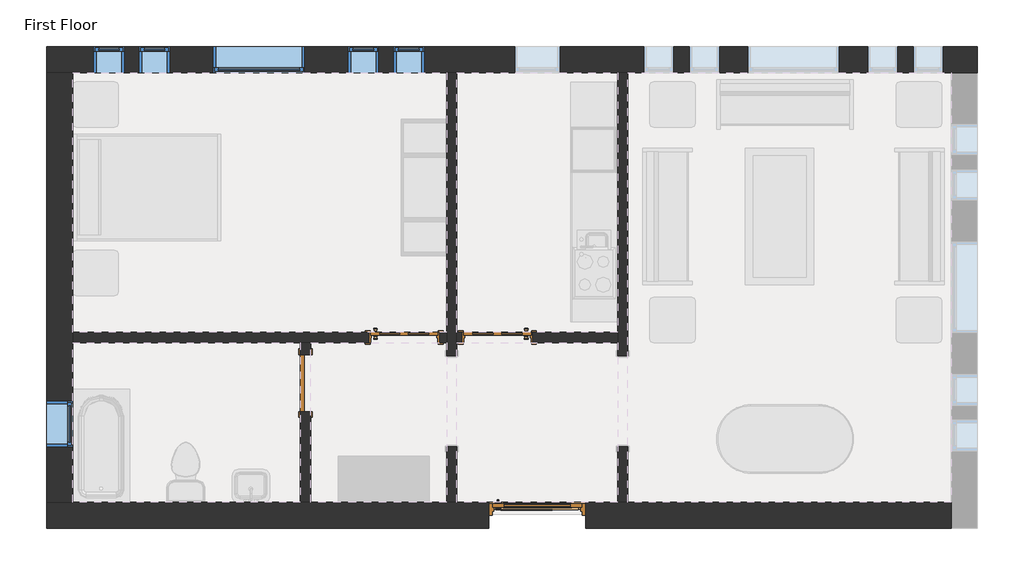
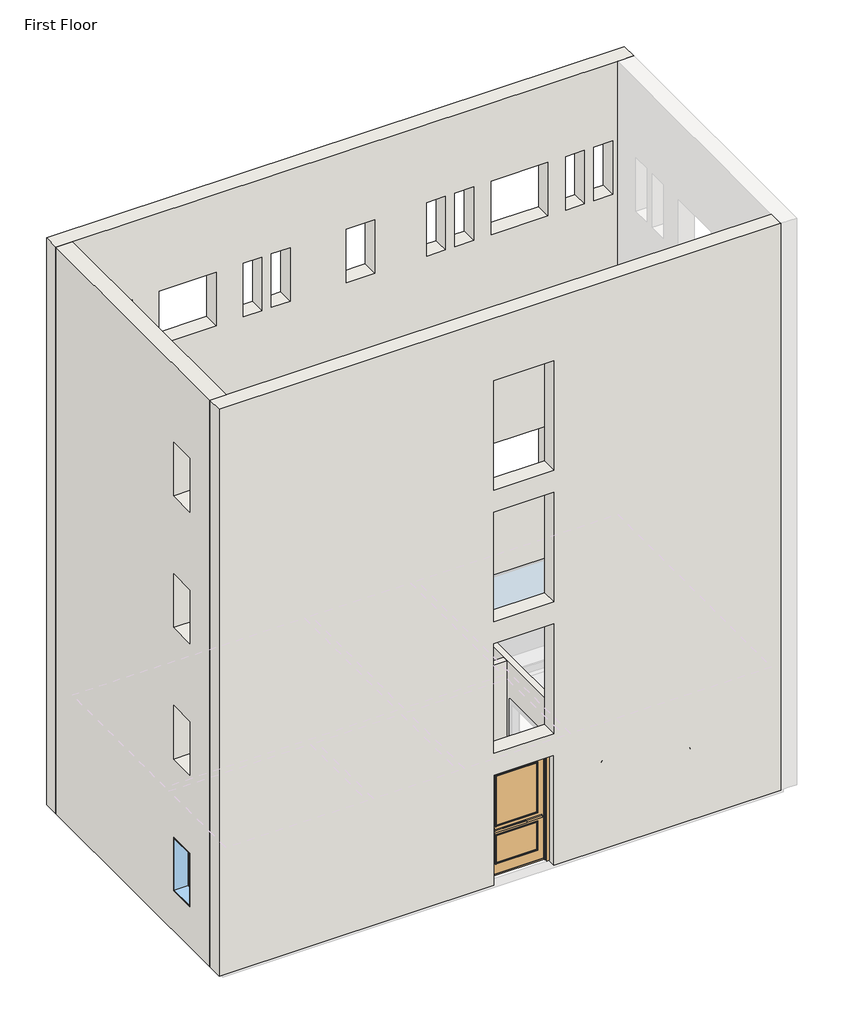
# One storey, part 1 of 2: 7 walls, 6 windows, 4 doors.
"""IFC4 building model written with IfcOpenShell, lengths in millimetres."""

from ifc_helpers import new_model, si_unit, frame, origin, place, context, project, spatial, polyline, outline, extrude, faceted_brep, transform, mapped, element, save
from components import m_door_exterior_single_two_lite_1200_x_2400mm_30e12bfc, m_door_interior_single_4_panel_wood_900_x_2100mm_1f4ed184, m_door_interior_single_4_panel_wood_900_x_2100mm_40914eee, m_single_flush_0762_x_2134mm_0d89e411, m_fixed_0406_x_1220mm_57fee329, m_fixed_0406_x_1220mm_85c28f40, m_fixed_0610_x_1220mm_2c28ef1d, m_fixed_1220_x_1220_e08ff7af

model = new_model("IFC4")

# Units and contexts
model_context = context("Model", 3, world=origin())
ifc_project = project(units=[si_unit("LENGTHUNIT", "METRE", prefix="MILLI")], contexts=[model_context])

# Site, building, storey
site = spatial("IfcSite", under=ifc_project)
building = spatial("IfcBuilding", under=site)
storey = spatial("IfcBuildingStorey", under=building, Name="First Floor", Elevation=0.0)

# Doors
placement = place(None, origin())
m_door_exterior_single_two_lite_1200_x_2400mm_shape = m_door_exterior_single_two_lite_1200_x_2400mm_30e12bfc(model_context)
element("IfcDoor", 1, ObjectType="M_Door-Exterior-Single-Two_Lite : 1200 x 2400mm", at=placement, inside=storey, context=model_context, shape_type="MappedRepresentation", body=[
    mapped(m_door_exterior_single_two_lite_1200_x_2400mm_shape, transform((-11984.0930086, 7923.7170483, 0.0), x_axis=(1.0, 0.0, 0.0), y_axis=(0.0, 1.0, 0.0), z_axis=(0.0, 0.0, 1.0))),
])
m_door_interior_single_4_panel_wood_900_x_2100mm_shape = m_door_interior_single_4_panel_wood_900_x_2100mm_1f4ed184(model_context)
element("IfcDoor", 2, ObjectType="M_Door-Interior-Single-4_Panel-Wood : 900 x 2100mm", at=placement, inside=storey, context=model_context, shape_type="MappedRepresentation", body=[
    mapped(m_door_interior_single_4_panel_wood_900_x_2100mm_shape, transform((-12518.0930086, 10309.9920483, 0.0), x_axis=(-1.0, 0.0, 0.0), y_axis=(0.0, -1.0, 0.0), z_axis=(0.0, 0.0, 1.0))),
])
m_door_interior_single_4_panel_wood_900_x_2100mm_2_shape = m_door_interior_single_4_panel_wood_900_x_2100mm_40914eee(model_context)
element("IfcDoor", 3, ObjectType="M_Door-Interior-Single-4_Panel-Wood : 900 x 2100mm", at=placement, inside=storey, context=model_context, shape_type="MappedRepresentation", body=[
    mapped(m_door_interior_single_4_panel_wood_900_x_2100mm_2_shape, transform((-13766.0930086, 10309.9920483, 0.0), x_axis=(1.0, 0.0, 0.0), y_axis=(0.0, 1.0, 0.0), z_axis=(0.0, 0.0, 1.0))),
])
m_single_flush_0762_x_2134mm_shape = m_single_flush_0762_x_2134mm_0d89e411(model_context)
element("IfcDoor", 4, ObjectType="M_Single-Flush : 0762 x 2134mm", at=placement, inside=storey, context=model_context, shape_type="MappedRepresentation", body=[
    mapped(m_single_flush_0762_x_2134mm_shape, transform((-15086.0930086, 9696.8170483, 0.0), x_axis=(0.0, 1.0, 0.0), y_axis=(-1.0, 0.0, 0.0), z_axis=(0.0, 0.0, 1.0))),
])

# Walls
element("IfcWall", 5, ObjectType="Exterior - Brick on Mtl. Stud", at=placement, inside=storey, context=model_context, shape_type="Brep", body=[
    faceted_brep([(-18551.8430086, 13851.0670483, 0.0), (-18366.8430086, 13851.0670483, 0.0), (-18201.8430086, 13851.0670483, 0.0), (-13194.8430086, 13851.0670483, 0.0), (-13059.3430086, 13851.0670483, 0.0), (-10908.8430086, 13851.0670483, 0.0), (-10773.3430086, 13851.0670483, 0.0), (-6444.0930086, 13851.0670483, 0.0), (-6279.0930086, 13851.0670483, 0.0), (-6094.0930086, 13851.0670483, 0.0), (-6094.0930086, 13851.0670483, 12915.0), (-6444.0930086, 13851.0670483, 12915.0), (-18201.8430086, 13851.0670483, 12915.0), (-18551.8430086, 13851.0670483, 12915.0), (-11679.0930086, 13851.0670483, 915.0), (-12289.0930086, 13851.0670483, 915.0), (-12289.0930086, 13851.0670483, 2135.0), (-11679.0930086, 13851.0670483, 2135.0), (-15099.8430086, 13851.0670483, 915.0), (-16319.8430086, 13851.0670483, 915.0), (-16319.8430086, 13851.0670483, 2135.0), (-15099.8430086, 13851.0670483, 2135.0), (-7945.0930086, 13851.0670483, 915.0), (-9165.0930086, 13851.0670483, 915.0), (-9165.0930086, 13851.0670483, 2135.0), (-7945.0930086, 13851.0670483, 2135.0), (-17919.4430086, 13851.0670483, 915.0), (-17919.4430086, 13851.0670483, 2135.0), (-17513.4430086, 13851.0670483, 2135.0), (-17513.4430086, 13851.0670483, 915.0), (-17309.8430086, 13851.0670483, 915.0), (-17309.8430086, 13851.0670483, 2135.0), (-16903.8430086, 13851.0670483, 2135.0), (-16903.8430086, 13851.0670483, 915.0), (-14109.8430086, 13851.0670483, 915.0), (-14515.8430086, 13851.0670483, 915.0), (-14515.8430086, 13851.0670483, 2135.0), (-14109.8430086, 13851.0670483, 2135.0), (-13500.2430086, 13851.0670483, 915.0), (-13906.2430086, 13851.0670483, 915.0), (-13906.2430086, 13851.0670483, 2135.0), (-13500.2430086, 13851.0670483, 2135.0), (-10155.0930086, 13851.0670483, 915.0), (-10561.0930086, 13851.0670483, 915.0), (-10561.0930086, 13851.0670483, 2135.0), (-10155.0930086, 13851.0670483, 2135.0), (-9545.4930086, 13851.0670483, 915.0), (-9951.4930086, 13851.0670483, 915.0), (-9951.4930086, 13851.0670483, 2135.0), (-9545.4930086, 13851.0670483, 2135.0), (-6955.0930086, 13851.0670483, 915.0), (-6955.0930086, 13851.0670483, 2135.0), (-6549.0930086, 13851.0670483, 2135.0), (-6549.0930086, 13851.0670483, 915.0), (-7564.6930086, 13851.0670483, 915.0), (-7564.6930086, 13851.0670483, 2135.0), (-7158.6930086, 13851.0670483, 2135.0), (-7158.6930086, 13851.0670483, 915.0), (-6955.0930086, 13851.0670483, 9915.0), (-6955.0930086, 13851.0670483, 11135.0), (-6549.0930086, 13851.0670483, 11135.0), (-6549.0930086, 13851.0670483, 9915.0), (-7564.6930086, 13851.0670483, 9915.0), (-7564.6930086, 13851.0670483, 11135.0), (-7158.6930086, 13851.0670483, 11135.0), (-7158.6930086, 13851.0670483, 9915.0), (-10155.0930086, 13851.0670483, 9915.0), (-10561.0930086, 13851.0670483, 9915.0), (-10561.0930086, 13851.0670483, 11135.0), (-10155.0930086, 13851.0670483, 11135.0), (-9545.4930086, 13851.0670483, 9915.0), (-9951.4930086, 13851.0670483, 9915.0), (-9951.4930086, 13851.0670483, 11135.0), (-9545.4930086, 13851.0670483, 11135.0), (-14109.8430086, 13851.0670483, 9915.0), (-14515.8430086, 13851.0670483, 9915.0), (-14515.8430086, 13851.0670483, 11135.0), (-14109.8430086, 13851.0670483, 11135.0), (-13500.2430086, 13851.0670483, 9915.0), (-13906.2430086, 13851.0670483, 9915.0), (-13906.2430086, 13851.0670483, 11135.0), (-13500.2430086, 13851.0670483, 11135.0), (-17309.8430086, 13851.0670483, 9915.0), (-17309.8430086, 13851.0670483, 11135.0), (-16903.8430086, 13851.0670483, 11135.0), (-16903.8430086, 13851.0670483, 9915.0), (-17919.4430086, 13851.0670483, 9915.0), (-17919.4430086, 13851.0670483, 11135.0), (-17513.4430086, 13851.0670483, 11135.0), (-17513.4430086, 13851.0670483, 9915.0), (-7945.0930086, 13851.0670483, 9915.0), (-9165.0930086, 13851.0670483, 9915.0), (-9165.0930086, 13851.0670483, 11135.0), (-7945.0930086, 13851.0670483, 11135.0), (-15099.8430086, 13851.0670483, 9915.0), (-16319.8430086, 13851.0670483, 9915.0), (-16319.8430086, 13851.0670483, 11135.0), (-15099.8430086, 13851.0670483, 11135.0), (-11679.0930086, 13851.0670483, 9915.0), (-12289.0930086, 13851.0670483, 9915.0), (-12289.0930086, 13851.0670483, 11135.0), (-11679.0930086, 13851.0670483, 11135.0), (-6955.0930086, 13851.0670483, 3915.0), (-6955.0930086, 13851.0670483, 5135.0), (-6549.0930086, 13851.0670483, 5135.0), (-6549.0930086, 13851.0670483, 3915.0), (-7564.6930086, 13851.0670483, 3915.0), (-7564.6930086, 13851.0670483, 5135.0), (-7158.6930086, 13851.0670483, 5135.0), (-7158.6930086, 13851.0670483, 3915.0), (-10155.0930086, 13851.0670483, 3915.0), (-10561.0930086, 13851.0670483, 3915.0), (-10561.0930086, 13851.0670483, 5135.0), (-10155.0930086, 13851.0670483, 5135.0), (-9545.4930086, 13851.0670483, 3915.0), (-9951.4930086, 13851.0670483, 3915.0), (-9951.4930086, 13851.0670483, 5135.0), (-9545.4930086, 13851.0670483, 5135.0), (-14109.8430086, 13851.0670483, 3915.0), (-14515.8430086, 13851.0670483, 3915.0), (-14515.8430086, 13851.0670483, 5135.0), (-14109.8430086, 13851.0670483, 5135.0), (-13500.2430086, 13851.0670483, 3915.0), (-13906.2430086, 13851.0670483, 3915.0), (-13906.2430086, 13851.0670483, 5135.0), (-13500.2430086, 13851.0670483, 5135.0), (-17309.8430086, 13851.0670483, 3915.0), (-17309.8430086, 13851.0670483, 5135.0), (-16903.8430086, 13851.0670483, 5135.0), (-16903.8430086, 13851.0670483, 3915.0), (-17919.4430086, 13851.0670483, 3915.0), (-17919.4430086, 13851.0670483, 5135.0), (-17513.4430086, 13851.0670483, 5135.0), (-17513.4430086, 13851.0670483, 3915.0), (-7945.0930086, 13851.0670483, 3915.0), (-9165.0930086, 13851.0670483, 3915.0), (-9165.0930086, 13851.0670483, 5135.0), (-7945.0930086, 13851.0670483, 5135.0), (-15099.8430086, 13851.0670483, 3915.0), (-16319.8430086, 13851.0670483, 3915.0), (-16319.8430086, 13851.0670483, 5135.0), (-15099.8430086, 13851.0670483, 5135.0), (-11679.0930086, 13851.0670483, 3915.0), (-12289.0930086, 13851.0670483, 3915.0), (-12289.0930086, 13851.0670483, 5135.0), (-11679.0930086, 13851.0670483, 5135.0), (-6955.0930086, 13851.0670483, 6915.0), (-6955.0930086, 13851.0670483, 8135.0), (-6549.0930086, 13851.0670483, 8135.0), (-6549.0930086, 13851.0670483, 6915.0), (-7564.6930086, 13851.0670483, 6915.0), (-7564.6930086, 13851.0670483, 8135.0), (-7158.6930086, 13851.0670483, 8135.0), (-7158.6930086, 13851.0670483, 6915.0), (-10155.0930086, 13851.0670483, 6915.0), (-10561.0930086, 13851.0670483, 6915.0), (-10561.0930086, 13851.0670483, 8135.0), (-10155.0930086, 13851.0670483, 8135.0), (-9545.4930086, 13851.0670483, 6915.0), (-9951.4930086, 13851.0670483, 6915.0), (-9951.4930086, 13851.0670483, 8135.0), (-9545.4930086, 13851.0670483, 8135.0), (-14109.8430086, 13851.0670483, 6915.0), (-14515.8430086, 13851.0670483, 6915.0), (-14515.8430086, 13851.0670483, 8135.0), (-14109.8430086, 13851.0670483, 8135.0), (-13500.2430086, 13851.0670483, 6915.0), (-13906.2430086, 13851.0670483, 6915.0), (-13906.2430086, 13851.0670483, 8135.0), (-13500.2430086, 13851.0670483, 8135.0), (-17309.8430086, 13851.0670483, 6915.0), (-17309.8430086, 13851.0670483, 8135.0), (-16903.8430086, 13851.0670483, 8135.0), (-16903.8430086, 13851.0670483, 6915.0), (-17919.4430086, 13851.0670483, 6915.0), (-17919.4430086, 13851.0670483, 8135.0), (-17513.4430086, 13851.0670483, 8135.0), (-17513.4430086, 13851.0670483, 6915.0), (-7945.0930086, 13851.0670483, 6915.0), (-9165.0930086, 13851.0670483, 6915.0), (-9165.0930086, 13851.0670483, 8135.0), (-7945.0930086, 13851.0670483, 8135.0), (-15099.8430086, 13851.0670483, 6915.0), (-16319.8430086, 13851.0670483, 6915.0), (-16319.8430086, 13851.0670483, 8135.0), (-15099.8430086, 13851.0670483, 8135.0), (-11679.0930086, 13851.0670483, 6915.0), (-12289.0930086, 13851.0670483, 6915.0), (-12289.0930086, 13851.0670483, 8135.0), (-11679.0930086, 13851.0670483, 8135.0), (-18551.8430086, 14201.0670483, 0.0), (-18551.8430086, 14201.0670483, 12915.0), (-6094.0930086, 14201.0670483, 12915.0), (-6094.0930086, 14201.0670483, 0.0), (-6279.0930086, 14201.0670483, 0.0), (-18366.8430086, 14201.0670483, 0.0), (-11679.0930086, 14201.0670483, 915.0), (-11679.0930086, 14201.0670483, 2135.0), (-12289.0930086, 14201.0670483, 2135.0), (-12289.0930086, 14201.0670483, 915.0), (-15099.8430086, 14201.0670483, 915.0), (-15099.8430086, 14201.0670483, 2135.0), (-16319.8430086, 14201.0670483, 2135.0), (-16319.8430086, 14201.0670483, 915.0), (-7945.0930086, 14201.0670483, 915.0), (-7945.0930086, 14201.0670483, 2135.0), (-9165.0930086, 14201.0670483, 2135.0), (-9165.0930086, 14201.0670483, 915.0), (-17919.4430086, 14201.0670483, 915.0), (-17513.4430086, 14201.0670483, 915.0), (-17513.4430086, 14201.0670483, 2135.0), (-17919.4430086, 14201.0670483, 2135.0), (-17309.8430086, 14201.0670483, 915.0), (-16903.8430086, 14201.0670483, 915.0), (-16903.8430086, 14201.0670483, 2135.0), (-17309.8430086, 14201.0670483, 2135.0), (-14109.8430086, 14201.0670483, 915.0), (-14109.8430086, 14201.0670483, 2135.0), (-14515.8430086, 14201.0670483, 2135.0), (-14515.8430086, 14201.0670483, 915.0), (-13500.2430086, 14201.0670483, 915.0), (-13500.2430086, 14201.0670483, 2135.0), (-13906.2430086, 14201.0670483, 2135.0), (-13906.2430086, 14201.0670483, 915.0), (-10155.0930086, 14201.0670483, 915.0), (-10155.0930086, 14201.0670483, 2135.0), (-10561.0930086, 14201.0670483, 2135.0), (-10561.0930086, 14201.0670483, 915.0), (-9545.4930086, 14201.0670483, 915.0), (-9545.4930086, 14201.0670483, 2135.0), (-9951.4930086, 14201.0670483, 2135.0), (-9951.4930086, 14201.0670483, 915.0), (-6955.0930086, 14201.0670483, 915.0), (-6549.0930086, 14201.0670483, 915.0), (-6549.0930086, 14201.0670483, 2135.0), (-6955.0930086, 14201.0670483, 2135.0), (-7564.6930086, 14201.0670483, 915.0), (-7158.6930086, 14201.0670483, 915.0), (-7158.6930086, 14201.0670483, 2135.0), (-7564.6930086, 14201.0670483, 2135.0), (-6955.0930086, 14201.0670483, 9915.0), (-6549.0930086, 14201.0670483, 9915.0), (-6549.0930086, 14201.0670483, 11135.0), (-6955.0930086, 14201.0670483, 11135.0), (-7564.6930086, 14201.0670483, 9915.0), (-7158.6930086, 14201.0670483, 9915.0), (-7158.6930086, 14201.0670483, 11135.0), (-7564.6930086, 14201.0670483, 11135.0), (-10155.0930086, 14201.0670483, 9915.0), (-10155.0930086, 14201.0670483, 11135.0), (-10561.0930086, 14201.0670483, 11135.0), (-10561.0930086, 14201.0670483, 9915.0), (-9545.4930086, 14201.0670483, 9915.0), (-9545.4930086, 14201.0670483, 11135.0), (-9951.4930086, 14201.0670483, 11135.0), (-9951.4930086, 14201.0670483, 9915.0), (-14109.8430086, 14201.0670483, 9915.0), (-14109.8430086, 14201.0670483, 11135.0), (-14515.8430086, 14201.0670483, 11135.0), (-14515.8430086, 14201.0670483, 9915.0), (-13500.2430086, 14201.0670483, 9915.0), (-13500.2430086, 14201.0670483, 11135.0), (-13906.2430086, 14201.0670483, 11135.0), (-13906.2430086, 14201.0670483, 9915.0), (-17309.8430086, 14201.0670483, 9915.0), (-16903.8430086, 14201.0670483, 9915.0), (-16903.8430086, 14201.0670483, 11135.0), (-17309.8430086, 14201.0670483, 11135.0), (-17919.4430086, 14201.0670483, 9915.0), (-17513.4430086, 14201.0670483, 9915.0), (-17513.4430086, 14201.0670483, 11135.0), (-17919.4430086, 14201.0670483, 11135.0), (-7945.0930086, 14201.0670483, 9915.0), (-7945.0930086, 14201.0670483, 11135.0), (-9165.0930086, 14201.0670483, 11135.0), (-9165.0930086, 14201.0670483, 9915.0), (-15099.8430086, 14201.0670483, 9915.0), (-15099.8430086, 14201.0670483, 11135.0), (-16319.8430086, 14201.0670483, 11135.0), (-16319.8430086, 14201.0670483, 9915.0), (-11679.0930086, 14201.0670483, 9915.0), (-11679.0930086, 14201.0670483, 11135.0), (-12289.0930086, 14201.0670483, 11135.0), (-12289.0930086, 14201.0670483, 9915.0), (-6955.0930086, 14201.0670483, 3915.0), (-6549.0930086, 14201.0670483, 3915.0), (-6549.0930086, 14201.0670483, 5135.0), (-6955.0930086, 14201.0670483, 5135.0), (-7564.6930086, 14201.0670483, 3915.0), (-7158.6930086, 14201.0670483, 3915.0), (-7158.6930086, 14201.0670483, 5135.0), (-7564.6930086, 14201.0670483, 5135.0), (-10155.0930086, 14201.0670483, 3915.0), (-10155.0930086, 14201.0670483, 5135.0), (-10561.0930086, 14201.0670483, 5135.0), (-10561.0930086, 14201.0670483, 3915.0), (-9545.4930086, 14201.0670483, 3915.0), (-9545.4930086, 14201.0670483, 5135.0), (-9951.4930086, 14201.0670483, 5135.0), (-9951.4930086, 14201.0670483, 3915.0), (-14109.8430086, 14201.0670483, 3915.0), (-14109.8430086, 14201.0670483, 5135.0), (-14515.8430086, 14201.0670483, 5135.0), (-14515.8430086, 14201.0670483, 3915.0), (-13500.2430086, 14201.0670483, 3915.0), (-13500.2430086, 14201.0670483, 5135.0), (-13906.2430086, 14201.0670483, 5135.0), (-13906.2430086, 14201.0670483, 3915.0), (-17309.8430086, 14201.0670483, 3915.0), (-16903.8430086, 14201.0670483, 3915.0), (-16903.8430086, 14201.0670483, 5135.0), (-17309.8430086, 14201.0670483, 5135.0), (-17919.4430086, 14201.0670483, 3915.0), (-17513.4430086, 14201.0670483, 3915.0), (-17513.4430086, 14201.0670483, 5135.0), (-17919.4430086, 14201.0670483, 5135.0), (-7945.0930086, 14201.0670483, 3915.0), (-7945.0930086, 14201.0670483, 5135.0), (-9165.0930086, 14201.0670483, 5135.0), (-9165.0930086, 14201.0670483, 3915.0), (-15099.8430086, 14201.0670483, 3915.0), (-15099.8430086, 14201.0670483, 5135.0), (-16319.8430086, 14201.0670483, 5135.0), (-16319.8430086, 14201.0670483, 3915.0), (-11679.0930086, 14201.0670483, 3915.0), (-11679.0930086, 14201.0670483, 5135.0), (-12289.0930086, 14201.0670483, 5135.0), (-12289.0930086, 14201.0670483, 3915.0), (-6955.0930086, 14201.0670483, 6915.0), (-6549.0930086, 14201.0670483, 6915.0), (-6549.0930086, 14201.0670483, 8135.0), (-6955.0930086, 14201.0670483, 8135.0), (-7564.6930086, 14201.0670483, 6915.0), (-7158.6930086, 14201.0670483, 6915.0), (-7158.6930086, 14201.0670483, 8135.0), (-7564.6930086, 14201.0670483, 8135.0), (-10155.0930086, 14201.0670483, 6915.0), (-10155.0930086, 14201.0670483, 8135.0), (-10561.0930086, 14201.0670483, 8135.0), (-10561.0930086, 14201.0670483, 6915.0), (-9545.4930086, 14201.0670483, 6915.0), (-9545.4930086, 14201.0670483, 8135.0), (-9951.4930086, 14201.0670483, 8135.0), (-9951.4930086, 14201.0670483, 6915.0), (-14109.8430086, 14201.0670483, 6915.0), (-14109.8430086, 14201.0670483, 8135.0), (-14515.8430086, 14201.0670483, 8135.0), (-14515.8430086, 14201.0670483, 6915.0), (-13500.2430086, 14201.0670483, 6915.0), (-13500.2430086, 14201.0670483, 8135.0), (-13906.2430086, 14201.0670483, 8135.0), (-13906.2430086, 14201.0670483, 6915.0), (-17309.8430086, 14201.0670483, 6915.0), (-16903.8430086, 14201.0670483, 6915.0), (-16903.8430086, 14201.0670483, 8135.0), (-17309.8430086, 14201.0670483, 8135.0), (-17919.4430086, 14201.0670483, 6915.0), (-17513.4430086, 14201.0670483, 6915.0), (-17513.4430086, 14201.0670483, 8135.0), (-17919.4430086, 14201.0670483, 8135.0), (-7945.0930086, 14201.0670483, 6915.0), (-7945.0930086, 14201.0670483, 8135.0), (-9165.0930086, 14201.0670483, 8135.0), (-9165.0930086, 14201.0670483, 6915.0), (-15099.8430086, 14201.0670483, 6915.0), (-15099.8430086, 14201.0670483, 8135.0), (-16319.8430086, 14201.0670483, 8135.0), (-16319.8430086, 14201.0670483, 6915.0), (-11679.0930086, 14201.0670483, 6915.0), (-11679.0930086, 14201.0670483, 8135.0), (-12289.0930086, 14201.0670483, 8135.0), (-12289.0930086, 14201.0670483, 6915.0), (-6094.0930086, 14016.0670483, 0.0), (-18551.8430086, 14016.0670483, 0.0), (-18366.8430086, 14016.0670483, 0.0), (-6279.0930086, 14016.0670483, 0.0)], [[[0, 1, 2, 3, 4, 5, 6, 7, 8, 9, 10, 11, 12, 13], [14, 15, 16, 17], [18, 19, 20, 21], [22, 23, 24, 25], [26, 27, 28, 29], [30, 31, 32, 33], [34, 35, 36, 37], [38, 39, 40, 41], [42, 43, 44, 45], [46, 47, 48, 49], [50, 51, 52, 53], [54, 55, 56, 57], [58, 59, 60, 61], [62, 63, 64, 65], [66, 67, 68, 69], [70, 71, 72, 73], [74, 75, 76, 77], [78, 79, 80, 81], [82, 83, 84, 85], [86, 87, 88, 89], [90, 91, 92, 93], [94, 95, 96, 97], [98, 99, 100, 101], [102, 103, 104, 105], [106, 107, 108, 109], [110, 111, 112, 113], [114, 115, 116, 117], [118, 119, 120, 121], [122, 123, 124, 125], [126, 127, 128, 129], [130, 131, 132, 133], [134, 135, 136, 137], [138, 139, 140, 141], [142, 143, 144, 145], [146, 147, 148, 149], [150, 151, 152, 153], [154, 155, 156, 157], [158, 159, 160, 161], [162, 163, 164, 165], [166, 167, 168, 169], [170, 171, 172, 173], [174, 175, 176, 177], [178, 179, 180, 181], [182, 183, 184, 185], [186, 187, 188, 189]], [[190, 191, 192, 193, 194, 195], [196, 197, 198, 199], [200, 201, 202, 203], [204, 205, 206, 207], [208, 209, 210, 211], [212, 213, 214, 215], [216, 217, 218, 219], [220, 221, 222, 223], [224, 225, 226, 227], [228, 229, 230, 231], [232, 233, 234, 235], [236, 237, 238, 239], [240, 241, 242, 243], [244, 245, 246, 247], [248, 249, 250, 251], [252, 253, 254, 255], [256, 257, 258, 259], [260, 261, 262, 263], [264, 265, 266, 267], [268, 269, 270, 271], [272, 273, 274, 275], [276, 277, 278, 279], [280, 281, 282, 283], [284, 285, 286, 287], [288, 289, 290, 291], [292, 293, 294, 295], [296, 297, 298, 299], [300, 301, 302, 303], [304, 305, 306, 307], [308, 309, 310, 311], [312, 313, 314, 315], [316, 317, 318, 319], [320, 321, 322, 323], [324, 325, 326, 327], [328, 329, 330, 331], [332, 333, 334, 335], [336, 337, 338, 339], [340, 341, 342, 343], [344, 345, 346, 347], [348, 349, 350, 351], [352, 353, 354, 355], [356, 357, 358, 359], [360, 361, 362, 363], [364, 365, 366, 367], [368, 369, 370, 371]], [[13, 12, 11, 10, 192, 191]], [[10, 9, 372, 193, 192]], [[0, 13, 191, 190, 373]], [[197, 196, 14, 17]], [[198, 197, 17, 16]], [[199, 198, 16, 15]], [[196, 199, 15, 14]], [[201, 200, 18, 21]], [[202, 201, 21, 20]], [[203, 202, 20, 19]], [[200, 203, 19, 18]], [[205, 204, 22, 25]], [[206, 205, 25, 24]], [[207, 206, 24, 23]], [[204, 207, 23, 22]], [[27, 26, 208, 211]], [[28, 27, 211, 210]], [[29, 28, 210, 209]], [[26, 29, 209, 208]], [[31, 30, 212, 215]], [[32, 31, 215, 214]], [[33, 32, 214, 213]], [[30, 33, 213, 212]], [[217, 216, 34, 37]], [[218, 217, 37, 36]], [[219, 218, 36, 35]], [[216, 219, 35, 34]], [[221, 220, 38, 41]], [[222, 221, 41, 40]], [[223, 222, 40, 39]], [[220, 223, 39, 38]], [[225, 224, 42, 45]], [[226, 225, 45, 44]], [[227, 226, 44, 43]], [[224, 227, 43, 42]], [[229, 228, 46, 49]], [[230, 229, 49, 48]], [[231, 230, 48, 47]], [[228, 231, 47, 46]], [[51, 50, 232, 235]], [[52, 51, 235, 234]], [[53, 52, 234, 233]], [[50, 53, 233, 232]], [[55, 54, 236, 239]], [[56, 55, 239, 238]], [[57, 56, 238, 237]], [[54, 57, 237, 236]], [[1, 0, 373, 374]], [[373, 190, 195, 374]], [[9, 8, 375, 372]], [[195, 194, 375, 374]], [[194, 193, 372, 375]], [[8, 7, 6, 5, 4, 3, 2, 1, 374, 375]], [[59, 58, 240, 243]], [[60, 59, 243, 242]], [[61, 60, 242, 241]], [[58, 61, 241, 240]], [[63, 62, 244, 247]], [[64, 63, 247, 246]], [[65, 64, 246, 245]], [[62, 65, 245, 244]], [[249, 248, 66, 69]], [[250, 249, 69, 68]], [[251, 250, 68, 67]], [[248, 251, 67, 66]], [[253, 252, 70, 73]], [[254, 253, 73, 72]], [[255, 254, 72, 71]], [[252, 255, 71, 70]], [[257, 256, 74, 77]], [[258, 257, 77, 76]], [[259, 258, 76, 75]], [[256, 259, 75, 74]], [[261, 260, 78, 81]], [[262, 261, 81, 80]], [[263, 262, 80, 79]], [[260, 263, 79, 78]], [[83, 82, 264, 267]], [[84, 83, 267, 266]], [[85, 84, 266, 265]], [[82, 85, 265, 264]], [[87, 86, 268, 271]], [[88, 87, 271, 270]], [[89, 88, 270, 269]], [[86, 89, 269, 268]], [[273, 272, 90, 93]], [[274, 273, 93, 92]], [[275, 274, 92, 91]], [[272, 275, 91, 90]], [[277, 276, 94, 97]], [[278, 277, 97, 96]], [[279, 278, 96, 95]], [[276, 279, 95, 94]], [[281, 280, 98, 101]], [[282, 281, 101, 100]], [[283, 282, 100, 99]], [[280, 283, 99, 98]], [[103, 102, 284, 287]], [[104, 103, 287, 286]], [[105, 104, 286, 285]], [[102, 105, 285, 284]], [[107, 106, 288, 291]], [[108, 107, 291, 290]], [[109, 108, 290, 289]], [[106, 109, 289, 288]], [[293, 292, 110, 113]], [[294, 293, 113, 112]], [[295, 294, 112, 111]], [[292, 295, 111, 110]], [[297, 296, 114, 117]], [[298, 297, 117, 116]], [[299, 298, 116, 115]], [[296, 299, 115, 114]], [[301, 300, 118, 121]], [[302, 301, 121, 120]], [[303, 302, 120, 119]], [[300, 303, 119, 118]], [[305, 304, 122, 125]], [[306, 305, 125, 124]], [[307, 306, 124, 123]], [[304, 307, 123, 122]], [[127, 126, 308, 311]], [[128, 127, 311, 310]], [[129, 128, 310, 309]], [[126, 129, 309, 308]], [[131, 130, 312, 315]], [[132, 131, 315, 314]], [[133, 132, 314, 313]], [[130, 133, 313, 312]], [[317, 316, 134, 137]], [[318, 317, 137, 136]], [[319, 318, 136, 135]], [[316, 319, 135, 134]], [[321, 320, 138, 141]], [[322, 321, 141, 140]], [[323, 322, 140, 139]], [[320, 323, 139, 138]], [[325, 324, 142, 145]], [[326, 325, 145, 144]], [[327, 326, 144, 143]], [[324, 327, 143, 142]], [[147, 146, 328, 331]], [[148, 147, 331, 330]], [[149, 148, 330, 329]], [[146, 149, 329, 328]], [[151, 150, 332, 335]], [[152, 151, 335, 334]], [[153, 152, 334, 333]], [[150, 153, 333, 332]], [[337, 336, 154, 157]], [[338, 337, 157, 156]], [[339, 338, 156, 155]], [[336, 339, 155, 154]], [[341, 340, 158, 161]], [[342, 341, 161, 160]], [[343, 342, 160, 159]], [[340, 343, 159, 158]], [[345, 344, 162, 165]], [[346, 345, 165, 164]], [[347, 346, 164, 163]], [[344, 347, 163, 162]], [[349, 348, 166, 169]], [[350, 349, 169, 168]], [[351, 350, 168, 167]], [[348, 351, 167, 166]], [[171, 170, 352, 355]], [[172, 171, 355, 354]], [[173, 172, 354, 353]], [[170, 173, 353, 352]], [[175, 174, 356, 359]], [[176, 175, 359, 358]], [[177, 176, 358, 357]], [[174, 177, 357, 356]], [[361, 360, 178, 181]], [[362, 361, 181, 180]], [[363, 362, 180, 179]], [[360, 363, 179, 178]], [[365, 364, 182, 185]], [[366, 365, 185, 184]], [[367, 366, 184, 183]], [[364, 367, 183, 182]], [[369, 368, 186, 189]], [[370, 369, 189, 188]], [[371, 370, 188, 187]], [[368, 371, 187, 186]]]),
])
element("IfcWall", 6, ObjectType="Exterior - Brick on Mtl. Stud", at=placement, inside=storey, context=model_context, shape_type="Brep", body=[
    faceted_brep([(-18551.8430086, 8105.0670483, 12915.0), (-18201.8430086, 8105.0670483, 12915.0), (-6444.0930086, 8105.0670483, 12915.0), (-6444.0930086, 8105.0670483, 0.0), (-10773.3430086, 8105.0670483, 0.0), (-10908.8430086, 8105.0670483, 0.0), (-11334.0930086, 8105.0670483, 0.0), (-11334.0930086, 8105.0670483, 2500.0), (-12634.0930086, 8105.0670483, 2500.0), (-12634.0930086, 8105.0670483, 0.0), (-13059.3430086, 8105.0670483, 0.0), (-13194.8430086, 8105.0670483, 0.0), (-15018.3430086, 8105.0670483, 0.0), (-15153.8430086, 8105.0670483, 0.0), (-18201.8430086, 8105.0670483, 0.0), (-18551.8430086, 8105.0670483, 0.0), (-11334.0930086, 8105.0670483, 9000.0), (-11334.0930086, 8105.0670483, 11500.0), (-12634.0930086, 8105.0670483, 11500.0), (-12634.0930086, 8105.0670483, 9000.0), (-11334.0930086, 8105.0670483, 3000.0), (-11334.0930086, 8105.0670483, 5500.0), (-12634.0930086, 8105.0670483, 5500.0), (-12634.0930086, 8105.0670483, 3000.0), (-11334.0930086, 8105.0670483, 6000.0), (-11334.0930086, 8105.0670483, 8500.0), (-12634.0930086, 8105.0670483, 8500.0), (-12634.0930086, 8105.0670483, 6000.0), (-6444.0930086, 7755.0670483, 12915.0), (-18551.8430086, 7755.0670483, 12915.0), (-18551.8430086, 7755.0670483, 0.0), (-12634.0930086, 7755.0670483, 0.0), (-12634.0930086, 7755.0670483, 2500.0), (-11334.0930086, 7755.0670483, 2500.0), (-11334.0930086, 7755.0670483, 0.0), (-6444.0930086, 7755.0670483, 0.0), (-11334.0930086, 7755.0670483, 9000.0), (-12634.0930086, 7755.0670483, 9000.0), (-12634.0930086, 7755.0670483, 11500.0), (-11334.0930086, 7755.0670483, 11500.0), (-11334.0930086, 7755.0670483, 3000.0), (-12634.0930086, 7755.0670483, 3000.0), (-12634.0930086, 7755.0670483, 5500.0), (-11334.0930086, 7755.0670483, 5500.0), (-11334.0930086, 7755.0670483, 6000.0), (-12634.0930086, 7755.0670483, 6000.0), (-12634.0930086, 7755.0670483, 8500.0), (-11334.0930086, 7755.0670483, 8500.0)], [[[0, 1, 2, 3, 4, 5, 6, 7, 8, 9, 10, 11, 12, 13, 14, 15], [16, 17, 18, 19], [20, 21, 22, 23], [24, 25, 26, 27]], [[28, 29, 30, 31, 32, 33, 34, 35], [36, 37, 38, 39], [40, 41, 42, 43], [44, 45, 46, 47]], [[3, 35, 34, 6, 5, 4]], [[30, 15, 14, 13, 12, 11, 10, 9, 31]], [[2, 1, 0, 29, 28]], [[3, 2, 28, 35]], [[0, 15, 30, 29]], [[33, 7, 6, 34]], [[7, 33, 32, 8]], [[8, 32, 31, 9]], [[17, 16, 36, 39]], [[18, 17, 39, 38]], [[19, 18, 38, 37]], [[16, 19, 37, 36]], [[21, 20, 40, 43]], [[22, 21, 43, 42]], [[23, 22, 42, 41]], [[20, 23, 41, 40]], [[25, 24, 44, 47]], [[26, 25, 47, 46]], [[27, 26, 46, 45]], [[24, 27, 45, 44]]]),
])
element("IfcWall", 7, ObjectType="Exterior - Brick on Mtl. Stud", at=placement, inside=storey, context=model_context, shape_type="Brep", body=[
    faceted_brep([(-18201.8430086, 8105.0670483, 0.0), (-18201.8430086, 10239.0670483, 0.0), (-18201.8430086, 10374.5670483, 0.0), (-18201.8430086, 13851.0670483, 0.0), (-18201.8430086, 13851.0670483, 12915.0), (-18201.8430086, 8105.0670483, 12915.0), (-18201.8430086, 9455.0670483, 915.0), (-18201.8430086, 8845.0670483, 915.0), (-18201.8430086, 8845.0670483, 2135.0), (-18201.8430086, 9455.0670483, 2135.0), (-18201.8430086, 9455.0670483, 9915.0), (-18201.8430086, 8845.0670483, 9915.0), (-18201.8430086, 8845.0670483, 11135.0), (-18201.8430086, 9455.0670483, 11135.0), (-18201.8430086, 9455.0670483, 3915.0), (-18201.8430086, 8845.0670483, 3915.0), (-18201.8430086, 8845.0670483, 5135.0), (-18201.8430086, 9455.0670483, 5135.0), (-18201.8430086, 9455.0670483, 6915.0), (-18201.8430086, 8845.0670483, 6915.0), (-18201.8430086, 8845.0670483, 8135.0), (-18201.8430086, 9455.0670483, 8135.0), (-18551.8430086, 8105.0670483, 0.0), (-18551.8430086, 8105.0670483, 12915.0), (-18551.8430086, 13851.0670483, 12915.0), (-18551.8430086, 13851.0670483, 0.0), (-18551.8430086, 9455.0670483, 915.0), (-18551.8430086, 9455.0670483, 2135.0), (-18551.8430086, 8845.0670483, 2135.0), (-18551.8430086, 8845.0670483, 915.0), (-18551.8430086, 9455.0670483, 9915.0), (-18551.8430086, 9455.0670483, 11135.0), (-18551.8430086, 8845.0670483, 11135.0), (-18551.8430086, 8845.0670483, 9915.0), (-18551.8430086, 9455.0670483, 3915.0), (-18551.8430086, 9455.0670483, 5135.0), (-18551.8430086, 8845.0670483, 5135.0), (-18551.8430086, 8845.0670483, 3915.0), (-18551.8430086, 9455.0670483, 6915.0), (-18551.8430086, 9455.0670483, 8135.0), (-18551.8430086, 8845.0670483, 8135.0), (-18551.8430086, 8845.0670483, 6915.0), (-18366.8430086, 8105.0670483, 0.0), (-18366.8430086, 13851.0670483, 0.0)], [[[0, 1, 2, 3, 4, 5], [6, 7, 8, 9], [10, 11, 12, 13], [14, 15, 16, 17], [18, 19, 20, 21]], [[22, 23, 24, 25], [26, 27, 28, 29], [30, 31, 32, 33], [34, 35, 36, 37], [38, 39, 40, 41]], [[5, 4, 24, 23]], [[0, 5, 23, 22, 42]], [[4, 3, 43, 25, 24]], [[27, 26, 6, 9]], [[28, 27, 9, 8]], [[29, 28, 8, 7]], [[26, 29, 7, 6]], [[42, 22, 25, 43]], [[3, 2, 1, 0, 42, 43]], [[31, 30, 10, 13]], [[32, 31, 13, 12]], [[33, 32, 12, 11]], [[30, 33, 11, 10]], [[35, 34, 14, 17]], [[36, 35, 17, 16]], [[37, 36, 16, 15]], [[34, 37, 15, 14]], [[39, 38, 18, 21]], [[40, 39, 21, 20]], [[41, 40, 20, 19]], [[38, 41, 19, 18]]]),
])
element("IfcWall", 8, ObjectType="Interior - 135mm Partition (2-hr)", at=placement, inside=storey, context=model_context, shape_type="Brep", body=[
    faceted_brep([(-10908.8430086, 13851.0670483, 0.0), (-10908.8430086, 10374.5670483, 0.0), (-10908.8430086, 10239.0670483, 0.0), (-10908.8430086, 10064.0670483, 0.0), (-10908.8430086, 10064.0670483, 2134.0), (-10908.8430086, 8844.0670483, 2134.0), (-10908.8430086, 8844.0670483, 0.0), (-10908.8430086, 8105.0670483, 0.0), (-10908.8430086, 8105.0670483, 3000.0), (-10908.8430086, 10239.0670483, 3000.0), (-10908.8430086, 10374.5670483, 3000.0), (-10908.8430086, 13851.0670483, 3000.0), (-10773.3430086, 10064.0670483, 2134.0), (-10773.3430086, 10064.0670483, 0.0), (-10773.3430086, 13851.0670483, 0.0), (-10773.3430086, 13851.0670483, 3000.0), (-10773.3430086, 8105.0670483, 3000.0), (-10773.3430086, 8105.0670483, 0.0), (-10773.3430086, 8844.0670483, 0.0), (-10773.3430086, 8844.0670483, 2134.0)], [[[0, 1, 2, 3, 4, 5, 6, 7, 8, 9, 10, 11]], [[12, 13, 14, 15, 16, 17, 18, 19]], [[18, 17, 7, 6]], [[14, 13, 3, 2, 1, 0]], [[11, 10, 9, 8, 16, 15]], [[0, 11, 15, 14]], [[8, 7, 17, 16]], [[6, 5, 19, 18]], [[4, 3, 13, 12]], [[5, 4, 12, 19]]]),
])
element("IfcWall", 9, ObjectType="Interior - 135mm Partition (2-hr)", at=placement, inside=storey, context=model_context, shape_type="Brep", body=[
    faceted_brep([(-13194.8430086, 8105.0670483, 3000.0), (-13194.8430086, 10239.0670483, 3000.0), (-13194.8430086, 10374.5670483, 3000.0), (-13194.8430086, 13851.0670483, 3000.0), (-13194.8430086, 13851.0670483, 0.0), (-13194.8430086, 10374.5670483, 0.0), (-13194.8430086, 10239.0670483, 0.0), (-13194.8430086, 10064.0670483, 0.0), (-13194.8430086, 10064.0670483, 2134.0), (-13194.8430086, 8844.0670483, 2134.0), (-13194.8430086, 8844.0670483, 0.0), (-13194.8430086, 8105.0670483, 0.0), (-13059.3430086, 13851.0670483, 3000.0), (-13059.3430086, 10374.5670483, 3000.0), (-13059.3430086, 10239.0670483, 3000.0), (-13059.3430086, 8105.0670483, 3000.0), (-13059.3430086, 8105.0670483, 0.0), (-13059.3430086, 8844.0670483, 0.0), (-13059.3430086, 8844.0670483, 2134.0), (-13059.3430086, 10064.0670483, 2134.0), (-13059.3430086, 10064.0670483, 0.0), (-13059.3430086, 10239.0670483, 0.0), (-13059.3430086, 10374.5670483, 0.0), (-13059.3430086, 13851.0670483, 0.0)], [[[0, 1, 2, 3, 4, 5, 6, 7, 8, 9, 10, 11]], [[12, 13, 14, 15, 16, 17, 18, 19, 20, 21, 22, 23]], [[4, 23, 22, 21, 20, 7, 6, 5]], [[16, 11, 10, 17]], [[3, 2, 1, 0, 15, 14, 13, 12]], [[4, 3, 12, 23]], [[0, 11, 16, 15]], [[19, 8, 7, 20]], [[9, 18, 17, 10]], [[8, 19, 18, 9]]]),
])
element("IfcWall", 10, ObjectType="Interior - 135mm Partition (2-hr)", at=placement, inside=storey, context=model_context, shape_type="Brep", body=[
    faceted_brep([(-18201.8430086, 10239.0670483, 3000.0), (-18201.8430086, 10239.0670483, 0.0), (-15153.8430086, 10239.0670483, 0.0), (-15018.3430086, 10239.0670483, 0.0), (-14241.0930086, 10239.0670483, 0.0), (-14241.0930086, 10239.0670483, 2125.0), (-13291.0930086, 10239.0670483, 2125.0), (-13291.0930086, 10239.0670483, 0.0), (-13194.8430086, 10239.0670483, 0.0), (-13194.8430086, 10239.0670483, 3000.0), (-15018.3430086, 10239.0670483, 3000.0), (-15153.8430086, 10239.0670483, 3000.0), (-18201.8430086, 10374.5670483, 0.0), (-18201.8430086, 10374.5670483, 3000.0), (-13194.8430086, 10374.5670483, 3000.0), (-13194.8430086, 10374.5670483, 0.0), (-13291.0930086, 10374.5670483, 0.0), (-13291.0930086, 10374.5670483, 2125.0), (-14241.0930086, 10374.5670483, 2125.0), (-14241.0930086, 10374.5670483, 0.0)], [[[0, 1, 2, 3, 4, 5, 6, 7, 8, 9, 10, 11]], [[12, 13, 14, 15, 16, 17, 18, 19]], [[1, 12, 19, 4, 3, 2]], [[7, 16, 15, 8]], [[13, 0, 11, 10, 9, 14]], [[1, 0, 13, 12]], [[9, 8, 15, 14]], [[6, 17, 16, 7]], [[17, 6, 5, 18]], [[18, 5, 4, 19]]]),
    faceted_brep([(-10908.8430086, 10239.0670483, 0.0), (-10908.8430086, 10239.0670483, 3000.0), (-13059.3430086, 10239.0670483, 3000.0), (-13059.3430086, 10239.0670483, 0.0), (-12993.0930086, 10239.0670483, 0.0), (-12993.0930086, 10239.0670483, 2125.0), (-12043.0930086, 10239.0670483, 2125.0), (-12043.0930086, 10239.0670483, 0.0), (-10908.8430086, 10374.5670483, 3000.0), (-10908.8430086, 10374.5670483, 0.0), (-12043.0930086, 10374.5670483, 0.0), (-12043.0930086, 10374.5670483, 2125.0), (-12993.0930086, 10374.5670483, 2125.0), (-12993.0930086, 10374.5670483, 0.0), (-13059.3430086, 10374.5670483, 0.0), (-13059.3430086, 10374.5670483, 3000.0)], [[[0, 1, 2, 3, 4, 5, 6, 7]], [[8, 9, 10, 11, 12, 13, 14, 15]], [[9, 0, 7, 10]], [[13, 4, 3, 14]], [[1, 8, 15, 2]], [[1, 0, 9, 8]], [[3, 2, 15, 14]], [[5, 4, 13, 12]], [[6, 5, 12, 11]], [[7, 6, 11, 10]]]),
])
element("IfcWall", 11, ObjectType="Interior - 135mm Partition (2-hr)", at=placement, inside=storey, context=model_context, shape_type="SweptSolid", body=[
    extrude(outline(polyline([(10239.0670483, 0.0), (10077.8170483, 0.0), (10077.8170483, 2134.0), (9315.8170483, 2134.0), (9315.8170483, 0.0), (8105.0670483, 0.0), (8105.0670483, 3000.0), (10239.0670483, 3000.0), (10239.0670483, 0.0)])), frame((-15153.8430086, 0.0, 0.0), z_axis=(1.0, 0.0, 0.0), x_axis=(0.0, 1.0, 0.0)), (0.0, 0.0, 1.0), 135.5),
])

# Windows
m_fixed_0406_x_1220mm_shape = m_fixed_0406_x_1220mm_57fee329(model_context)
element("IfcWindow", 12, ObjectType="M_Fixed : 0406 x 1220mm", at=placement, inside=storey, context=model_context, shape_type="MappedRepresentation", body=[
    mapped(m_fixed_0406_x_1220mm_shape, transform((-17716.4430086, 14013.0670483, 0.0), x_axis=(1.0, 0.0, 0.0), y_axis=(0.0, 1.0, 0.0), z_axis=(0.0, 0.0, 1.0))),
])
element("IfcWindow", 13, ObjectType="M_Fixed : 0406 x 1220mm", at=placement, inside=storey, context=model_context, shape_type="MappedRepresentation", body=[
    mapped(m_fixed_0406_x_1220mm_shape, transform((-17106.8430086, 14013.0670483, 0.0), x_axis=(1.0, 0.0, 0.0), y_axis=(0.0, 1.0, 0.0), z_axis=(0.0, 0.0, 1.0))),
])
m_fixed_0406_x_1220mm_2_shape = m_fixed_0406_x_1220mm_85c28f40(model_context)
element("IfcWindow", 14, ObjectType="M_Fixed : 0406 x 1220mm", at=placement, inside=storey, context=model_context, shape_type="MappedRepresentation", body=[
    mapped(m_fixed_0406_x_1220mm_2_shape, transform((-13703.2430086, 14013.0670483, 0.0), x_axis=(-1.0, 0.0, 0.0), y_axis=(0.0, -1.0, 0.0), z_axis=(0.0, 0.0, 1.0))),
])
element("IfcWindow", 15, ObjectType="M_Fixed : 0406 x 1220mm", at=placement, inside=storey, context=model_context, shape_type="MappedRepresentation", body=[
    mapped(m_fixed_0406_x_1220mm_2_shape, transform((-14312.8430086, 14013.0670483, 0.0), x_axis=(-1.0, 0.0, 0.0), y_axis=(0.0, -1.0, 0.0), z_axis=(0.0, 0.0, 1.0))),
])
m_fixed_0610_x_1220mm_shape = m_fixed_0610_x_1220mm_2c28ef1d(model_context)
element("IfcWindow", 16, ObjectType="M_Fixed : 0610 x 1220mm", at=placement, inside=storey, context=model_context, shape_type="MappedRepresentation", body=[
    mapped(m_fixed_0610_x_1220mm_shape, transform((-18389.8430086, 9150.0670483, 0.0), x_axis=(0.0, -1.0, 0.0), y_axis=(1.0, 0.0, 0.0), z_axis=(0.0, 0.0, 1.0))),
])
m_fixed_1220_x_1220_shape = m_fixed_1220_x_1220_e08ff7af(model_context)
element("IfcWindow", 17, ObjectType="M_Fixed : 1220 x 1220", at=placement, inside=storey, context=model_context, shape_type="MappedRepresentation", body=[
    mapped(m_fixed_1220_x_1220_shape, transform((-15709.8430086, 14039.0670483, 0.0), x_axis=(-1.0, 0.0, 0.0), y_axis=(0.0, -1.0, 0.0), z_axis=(0.0, 0.0, 1.0))),
])

save(model, "model.ifc")
